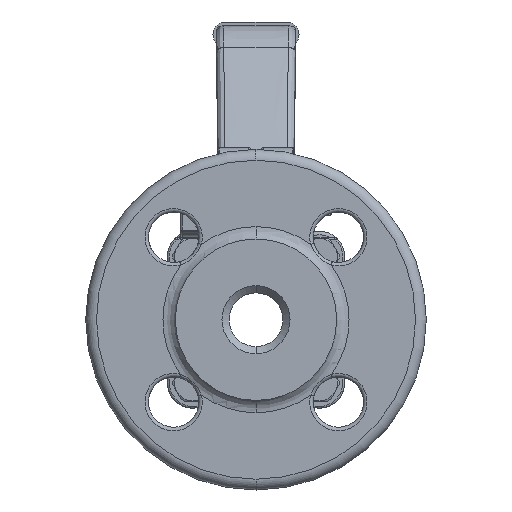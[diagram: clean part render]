
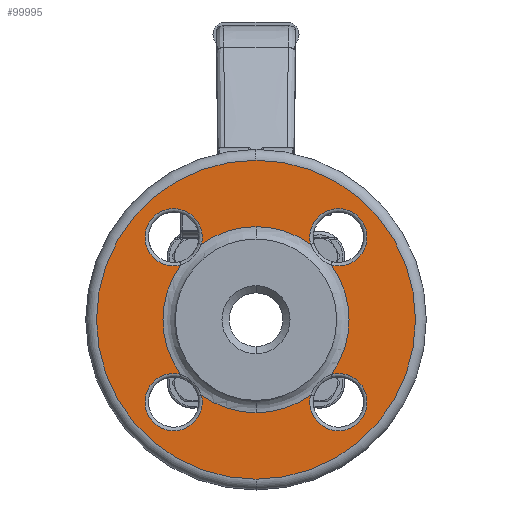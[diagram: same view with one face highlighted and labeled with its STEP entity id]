
A CAD part, left-side view. The second image highlights one B-rep face of the part: STEP entity #99995.
In plain terms, the highlighted planar face has unit normal (-1, 0, 0).
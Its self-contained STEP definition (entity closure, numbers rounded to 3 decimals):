
#26276=CARTESIAN_POINT('',(-48.,0.,0.));
#26277=DIRECTION('',(1.,0.,0.));
#26278=DIRECTION('',(0.,0.,1.));
#26279=AXIS2_PLACEMENT_3D('',#26276,#26277,#26278);
#26291=CARTESIAN_POINT('',(-48.,0.,0.));
#26292=DIRECTION('',(1.,0.,0.));
#26293=DIRECTION('',(0.,0.,-1.));
#26294=AXIS2_PLACEMENT_3D('',#26291,#26292,#26293);
#26309=CARTESIAN_POINT('',(-48.,0.,0.));
#26310=DIRECTION('',(1.,0.,0.));
#26311=DIRECTION('',(0.,0.81,-0.586));
#26312=AXIS2_PLACEMENT_3D('',#26309,#26310,#26311);
#26314=CARTESIAN_POINT('',(-48.,0.,0.));
#26315=DIRECTION('',(1.,0.,0.));
#26316=DIRECTION('',(0.,0.,-1.));
#26317=AXIS2_PLACEMENT_3D('',#26314,#26315,#26316);
#26319=CARTESIAN_POINT('',(-48.,0.,0.));
#26320=DIRECTION('',(-1.,0.,0.));
#26321=DIRECTION('',(0.,0.,-1.));
#26322=AXIS2_PLACEMENT_3D('',#26319,#26320,#26321);
#26324=CARTESIAN_POINT('',(-48.,0.,0.));
#26325=DIRECTION('',(-1.,0.,0.));
#26326=DIRECTION('',(0.,-0.81,-0.586));
#26327=AXIS2_PLACEMENT_3D('',#26324,#26325,#26326);
#26329=CARTESIAN_POINT('',(-48.,0.,0.));
#26330=DIRECTION('',(-1.,0.,0.));
#26331=DIRECTION('',(0.,-0.586,0.81));
#26332=AXIS2_PLACEMENT_3D('',#26329,#26330,#26331);
#26334=CARTESIAN_POINT('',(-48.,0.,0.));
#26335=DIRECTION('',(1.,0.,0.));
#26336=DIRECTION('',(0.,0.586,0.81));
#26337=AXIS2_PLACEMENT_3D('',#26334,#26335,#26336);
#26339=CARTESIAN_POINT('',(-48.,22.981,22.981));
#26340=DIRECTION('',(1.,0.,0.));
#26341=DIRECTION('',(0.,-0.243,-0.97));
#26342=AXIS2_PLACEMENT_3D('',#26339,#26340,#26341);
#26364=CARTESIAN_POINT('',(-48.,15.221,
21.034));
#26387=CARTESIAN_POINT('',(-48.,21.034,
15.221));
#26448=CARTESIAN_POINT('',(-48.,-21.034,
15.221));
#26471=CARTESIAN_POINT('',(-48.,-15.221,
21.034));
#26502=CARTESIAN_POINT('',(-48.,-22.981,22.981));
#26503=DIRECTION('',(1.,0.,0.));
#26504=DIRECTION('',(0.,0.97,-0.243));
#26505=AXIS2_PLACEMENT_3D('',#26502,#26503,#26504);
#26565=CARTESIAN_POINT('',(-48.,-15.221,
-21.034));
#26588=CARTESIAN_POINT('',(-48.,-21.034,
-15.221));
#26619=CARTESIAN_POINT('',(-48.,-22.981,-22.981));
#26620=DIRECTION('',(1.,0.,0.));
#26621=DIRECTION('',(0.,0.243,0.97));
#26622=AXIS2_PLACEMENT_3D('',#26619,#26620,#26621);
#35457=CARTESIAN_POINT('',(-48.,21.034,
-15.221));
#35480=CARTESIAN_POINT('',(-48.,15.221,
-21.034));
#35511=CARTESIAN_POINT('',(-48.,22.981,-22.981));
#35512=DIRECTION('',(1.,0.,0.));
#35513=DIRECTION('',(0.,-0.97,0.243));
#35514=AXIS2_PLACEMENT_3D('',#35511,#35512,#35513);
#43591=CARTESIAN_POINT('',(-48.,0.,-44.5));
#43592=CARTESIAN_POINT('',(-48.,0.,44.5));
#43593=VERTEX_POINT('',#43591);
#43594=VERTEX_POINT('',#43592);
#44563=VERTEX_POINT('',#26364);
#44564=VERTEX_POINT('',#26387);
#44579=VERTEX_POINT('',#26448);
#44580=VERTEX_POINT('',#26471);
#44592=VERTEX_POINT('',#26565);
#44593=VERTEX_POINT('',#26588);
#44612=VERTEX_POINT('',#35457);
#44613=VERTEX_POINT('',#35480);
#44625=CARTESIAN_POINT('',(-48.,0.,25.964));
#44626=VERTEX_POINT('',#44625);
#44627=CARTESIAN_POINT('',(-48.,0.,-25.964));
#44628=VERTEX_POINT('',#44627);
#99964=CARTESIAN_POINT('',(-48.,0.,0.));
#99965=DIRECTION('',(-1.,0.,0.));
#99966=DIRECTION('',(0.,0.,1.));
#99967=AXIS2_PLACEMENT_3D('',#99964,#99965,#99966);
#99968=PLANE('',#99967);
#99969=ORIENTED_EDGE('',*,*,#99946,.T.);
#99970=ORIENTED_EDGE('',*,*,#99931,.T.);
#99971=EDGE_LOOP('',(#99969,#99970));
#99972=FACE_OUTER_BOUND('',#99971,.F.);
#99974=ORIENTED_EDGE('',*,*,#99973,.F.);
#99976=ORIENTED_EDGE('',*,*,#99975,.F.);
#99978=ORIENTED_EDGE('',*,*,#99977,.F.);
#99980=ORIENTED_EDGE('',*,*,#99979,.F.);
#99982=ORIENTED_EDGE('',*,*,#99981,.T.);
#99984=ORIENTED_EDGE('',*,*,#99983,.F.);
#99986=ORIENTED_EDGE('',*,*,#99985,.T.);
#99988=ORIENTED_EDGE('',*,*,#99987,.F.);
#99990=ORIENTED_EDGE('',*,*,#99989,.T.);
#99992=ORIENTED_EDGE('',*,*,#99991,.F.);
#99993=EDGE_LOOP('',(#99974,#99976,#99978,#99980,#99982,#99984,#99986,#99988,
#99990,#99992));
#99994=FACE_BOUND('',#99993,.F.);
#99995=ADVANCED_FACE('',(#99972,#99994),#99968,.T.);
#26280=CIRCLE('',#26279,44.5);
#26295=CIRCLE('',#26294,44.5);
#26313=CIRCLE('',#26312,25.964);
#26318=CIRCLE('',#26317,25.964);
#26323=CIRCLE('',#26322,25.964);
#26328=CIRCLE('',#26327,25.964);
#26333=CIRCLE('',#26332,25.964);
#26338=CIRCLE('',#26337,25.964);
#26343=CIRCLE('',#26342,8.);
#26506=CIRCLE('',#26505,8.);
#26623=CIRCLE('',#26622,8.);
#35515=CIRCLE('',#35514,8.);
#99931=EDGE_CURVE('',#43594,#43593,#26280,.T.);
#99946=EDGE_CURVE('',#43593,#43594,#26295,.T.);
#99973=EDGE_CURVE('',#44564,#44563,#26343,.T.);
#99975=EDGE_CURVE('',#44612,#44564,#26313,.T.);
#99977=EDGE_CURVE('',#44613,#44612,#35515,.T.);
#99979=EDGE_CURVE('',#44628,#44613,#26318,.T.);
#99981=EDGE_CURVE('',#44628,#44592,#26323,.T.);
#99983=EDGE_CURVE('',#44593,#44592,#26623,.T.);
#99985=EDGE_CURVE('',#44593,#44579,#26328,.T.);
#99987=EDGE_CURVE('',#44580,#44579,#26506,.T.);
#99989=EDGE_CURVE('',#44580,#44626,#26333,.T.);
#99991=EDGE_CURVE('',#44563,#44626,#26338,.T.);
